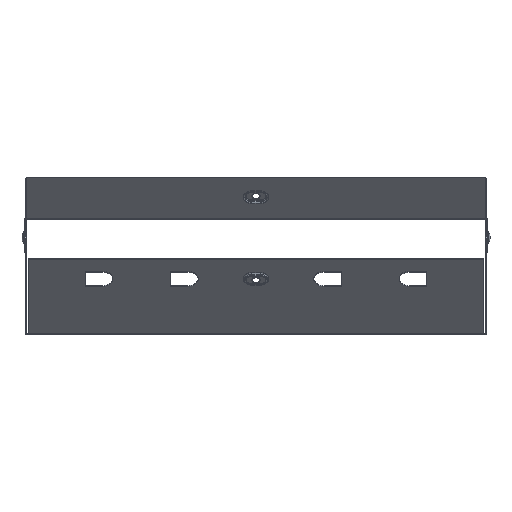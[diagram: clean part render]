
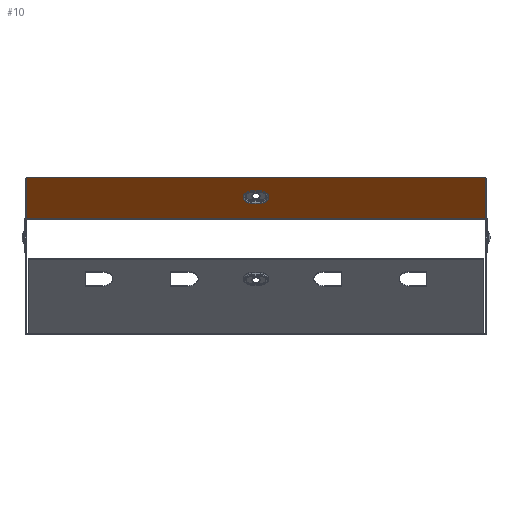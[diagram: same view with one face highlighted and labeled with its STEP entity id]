
A CAD part, top view. The second image highlights one B-rep face of the part: STEP entity #10.
In plain terms, the highlighted planar face has unit normal (0, -0.707, 0.707).
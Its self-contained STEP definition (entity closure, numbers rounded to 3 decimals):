
#10 = ADVANCED_FACE ( 'NONE', ( #9808, #6669 ), #9706, .F. ) ;
#58 = DIRECTION ( 'NONE',  ( 0., -0.707, 0.707 ) ) ;
#773 = LINE ( 'NONE', #4410, #6989 ) ;
#824 = EDGE_CURVE ( 'NONE', #1742, #5665, #7546, .T. ) ;
#1125 = VERTEX_POINT ( 'NONE', #15085 ) ;
#1324 = LINE ( 'NONE', #8530, #5678 ) ;
#1367 = LINE ( 'NONE', #7674, #4290 ) ;
#1434 = DIRECTION ( 'NONE',  ( 0., 0.707, 0.707 ) ) ;
#1489 = CARTESIAN_POINT ( 'NONE',  ( 3.5, 23.192, 86.823 ) ) ;
#1742 = VERTEX_POINT ( 'NONE', #2939 ) ;
#2123 = AXIS2_PLACEMENT_3D ( 'NONE', #12129, #13322, #1434 ) ;
#2702 = EDGE_CURVE ( 'NONE', #3314, #1125, #6442, .T. ) ;
#2779 = ORIENTED_EDGE ( 'NONE', *, *, #9698, .F. ) ;
#2939 = CARTESIAN_POINT ( 'NONE',  ( 3.5, 12.446, 76.078 ) ) ;
#3314 = VERTEX_POINT ( 'NONE', #14474 ) ;
#3704 = CARTESIAN_POINT ( 'NONE',  ( 199., 34.79, 98.421 ) ) ;
#3854 = CARTESIAN_POINT ( 'NONE',  ( -3.5, 23.192, 86.823 ) ) ;
#3944 = DIRECTION ( 'NONE',  ( 0., -0.707, 0.707 ) ) ;
#4290 = VECTOR ( 'NONE', #5328, 1000. ) ;
#4368 = AXIS2_PLACEMENT_3D ( 'NONE', #12249, #3944, #5153 ) ;
#4410 = CARTESIAN_POINT ( 'NONE',  ( -3.5, 12.446, 76.078 ) ) ;
#4578 = EDGE_LOOP ( 'NONE', ( #11931, #15129, #2779, #12672 ) ) ;
#4655 = EDGE_CURVE ( 'NONE', #12238, #8728, #9532, .T. ) ;
#4716 = VECTOR ( 'NONE', #14625, 1000. ) ;
#4888 = CARTESIAN_POINT ( 'NONE',  ( 199., -0.273, 63.359 ) ) ;
#5153 = DIRECTION ( 'NONE',  ( 0., -0.707, -0.707 ) ) ;
#5328 = DIRECTION ( 'NONE',  ( -1., 0., 0. ) ) ;
#5665 = VERTEX_POINT ( 'NONE', #1489 ) ;
#5678 = VECTOR ( 'NONE', #10701, 1000. ) ;
#6442 = LINE ( 'NONE', #12316, #11970 ) ;
#6669 = FACE_OUTER_BOUND ( 'NONE', #4578, .T. ) ;
#6690 = ORIENTED_EDGE ( 'NONE', *, *, #824, .F. ) ;
#6858 = CARTESIAN_POINT ( 'NONE',  ( 199., -0.566, 63.066 ) ) ;
#6989 = VECTOR ( 'NONE', #15114, 1000. ) ;
#7040 = AXIS2_PLACEMENT_3D ( 'NONE', #12864, #58, #8276 ) ;
#7401 = CARTESIAN_POINT ( 'NONE',  ( -3.5, 12.446, 76.078 ) ) ;
#7546 = CIRCLE ( 'NONE', #4368, 7.598 ) ;
#7674 = CARTESIAN_POINT ( 'NONE',  ( 199., -0.273, 63.359 ) ) ;
#8064 = LINE ( 'NONE', #12264, #4716 ) ;
#8276 = DIRECTION ( 'NONE',  ( 0., -0.707, -0.707 ) ) ;
#8328 = EDGE_CURVE ( 'NONE', #10155, #3314, #8064, .T. ) ;
#8530 = CARTESIAN_POINT ( 'NONE',  ( -3.5, 23.192, 86.823 ) ) ;
#8728 = VERTEX_POINT ( 'NONE', #7401 ) ;
#8959 = EDGE_CURVE ( 'NONE', #8728, #1742, #773, .T. ) ;
#9532 = CIRCLE ( 'NONE', #7040, 7.598 ) ;
#9656 = EDGE_LOOP ( 'NONE', ( #6690, #12910, #11345, #15175 ) ) ;
#9698 = EDGE_CURVE ( 'NONE', #10155, #12065, #9832, .T. ) ;
#9706 = PLANE ( 'NONE',  #2123 ) ;
#9808 = FACE_BOUND ( 'NONE', #9656, .T. ) ;
#9832 = LINE ( 'NONE', #6858, #14072 ) ;
#10155 = VERTEX_POINT ( 'NONE', #3704 ) ;
#10701 = DIRECTION ( 'NONE',  ( -1., 0., 0. ) ) ;
#10897 = EDGE_CURVE ( 'NONE', #5665, #12238, #1324, .T. ) ;
#11345 = ORIENTED_EDGE ( 'NONE', *, *, #4655, .F. ) ;
#11931 = ORIENTED_EDGE ( 'NONE', *, *, #2702, .T. ) ;
#11970 = VECTOR ( 'NONE', #14522, 1000. ) ;
#12065 = VERTEX_POINT ( 'NONE', #4888 ) ;
#12129 = CARTESIAN_POINT ( 'NONE',  ( 199., -0.566, 63.066 ) ) ;
#12238 = VERTEX_POINT ( 'NONE', #3854 ) ;
#12249 = CARTESIAN_POINT ( 'NONE',  ( 3.5, 17.819, 81.45 ) ) ;
#12264 = CARTESIAN_POINT ( 'NONE',  ( 199., 34.79, 98.421 ) ) ;
#12316 = CARTESIAN_POINT ( 'NONE',  ( -199., -0.566, 63.066 ) ) ;
#12587 = EDGE_CURVE ( 'NONE', #12065, #1125, #1367, .T. ) ;
#12672 = ORIENTED_EDGE ( 'NONE', *, *, #8328, .T. ) ;
#12864 = CARTESIAN_POINT ( 'NONE',  ( -3.5, 17.819, 81.45 ) ) ;
#12910 = ORIENTED_EDGE ( 'NONE', *, *, #8959, .F. ) ;
#13322 = DIRECTION ( 'NONE',  ( 0., 0.707, -0.707 ) ) ;
#14072 = VECTOR ( 'NONE', #15091, 1000. ) ;
#14474 = CARTESIAN_POINT ( 'NONE',  ( -199., 34.79, 98.421 ) ) ;
#14522 = DIRECTION ( 'NONE',  ( 0., -0.707, -0.707 ) ) ;
#14625 = DIRECTION ( 'NONE',  ( -1., 0., 0. ) ) ;
#15085 = CARTESIAN_POINT ( 'NONE',  ( -199., -0.273, 63.359 ) ) ;
#15091 = DIRECTION ( 'NONE',  ( 0., -0.707, -0.707 ) ) ;
#15114 = DIRECTION ( 'NONE',  ( 1., 0., 0. ) ) ;
#15129 = ORIENTED_EDGE ( 'NONE', *, *, #12587, .F. ) ;
#15175 = ORIENTED_EDGE ( 'NONE', *, *, #10897, .F. ) ;
